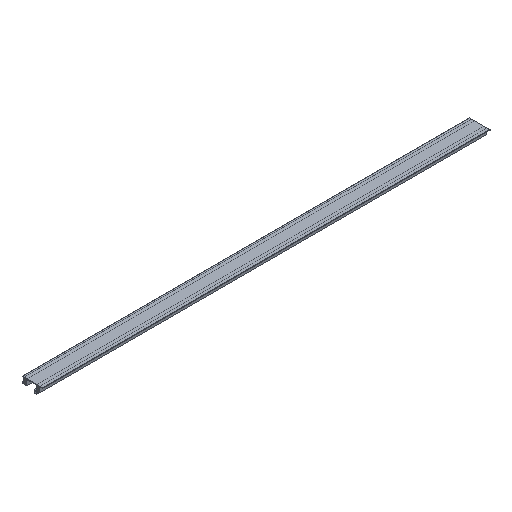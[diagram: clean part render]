
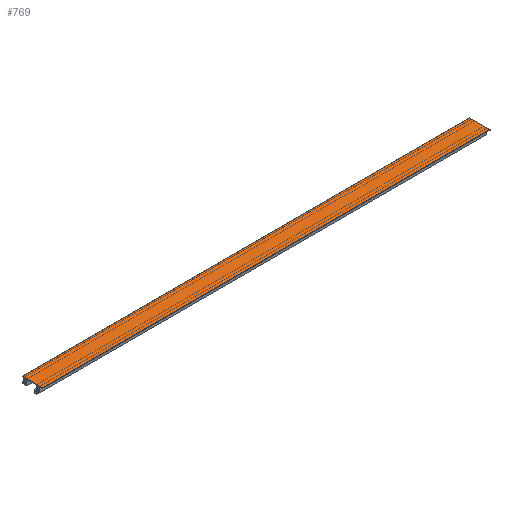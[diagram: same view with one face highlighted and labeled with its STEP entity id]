
A CAD part, isometric view. The second image highlights one B-rep face of the part: STEP entity #769.
In plain terms, the highlighted planar face has unit normal (0, 0, 1).
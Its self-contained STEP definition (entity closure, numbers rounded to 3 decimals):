
#20 = ORIENTED_EDGE ( 'NONE', *, *, #319, .T. ) ;
#45 = CARTESIAN_POINT ( 'NONE',  ( -1043.2, -35.497, 38.5 ) ) ;
#97 = EDGE_CURVE ( 'NONE', #294, #638, #455, .T. ) ;
#108 = CARTESIAN_POINT ( 'NONE',  ( -1043.2, -35.497, 38.5 ) ) ;
#146 = VECTOR ( 'NONE', #707, 1000. ) ;
#163 = CARTESIAN_POINT ( 'NONE',  ( 0., 11.85, 38.5 ) ) ;
#172 = AXIS2_PLACEMENT_3D ( 'NONE', #660, #859, #671 ) ;
#195 = PLANE ( 'NONE',  #172 ) ;
#202 = FACE_OUTER_BOUND ( 'NONE', #741, .T. ) ;
#210 = LINE ( 'NONE', #416, #670 ) ;
#213 = DIRECTION ( 'NONE',  ( 1., 0., 0. ) ) ;
#294 = VERTEX_POINT ( 'NONE', #108 ) ;
#319 = EDGE_CURVE ( 'NONE', #768, #294, #576, .T. ) ;
#341 = VECTOR ( 'NONE', #213, 1000. ) ;
#342 = ORIENTED_EDGE ( 'NONE', *, *, #348, .F. ) ;
#348 = EDGE_CURVE ( 'NONE', #554, #638, #852, .T. ) ;
#381 = EDGE_CURVE ( 'NONE', #768, #554, #210, .T. ) ;
#413 = ORIENTED_EDGE ( 'NONE', *, *, #381, .F. ) ;
#416 = CARTESIAN_POINT ( 'NONE',  ( -1043.2, 11.85, 38.5 ) ) ;
#442 = CARTESIAN_POINT ( 'NONE',  ( 0., -35.497, 38.5 ) ) ;
#455 = LINE ( 'NONE', #860, #341 ) ;
#475 = DIRECTION ( 'NONE',  ( 1., 0., 0. ) ) ;
#554 = VERTEX_POINT ( 'NONE', #163 ) ;
#567 = DIRECTION ( 'NONE',  ( 0., -1., 0. ) ) ;
#569 = VECTOR ( 'NONE', #567, 1000. ) ;
#576 = LINE ( 'NONE', #45, #569 ) ;
#638 = VERTEX_POINT ( 'NONE', #770 ) ;
#660 = CARTESIAN_POINT ( 'NONE',  ( -1043.2, -35.497, 38.5 ) ) ;
#670 = VECTOR ( 'NONE', #475, 1000. ) ;
#671 = DIRECTION ( 'NONE',  ( 0., -1., 0. ) ) ;
#707 = DIRECTION ( 'NONE',  ( 0., -1., 0. ) ) ;
#741 = EDGE_LOOP ( 'NONE', ( #342, #413, #20, #761 ) ) ;
#761 = ORIENTED_EDGE ( 'NONE', *, *, #97, .T. ) ;
#768 = VERTEX_POINT ( 'NONE', #868 ) ;
#769 = ADVANCED_FACE ( 'NONE', ( #202 ), #195, .T. ) ;
#770 = CARTESIAN_POINT ( 'NONE',  ( 0., -35.497, 38.5 ) ) ;
#852 = LINE ( 'NONE', #442, #146 ) ;
#859 = DIRECTION ( 'NONE',  ( 0., 0., 1. ) ) ;
#860 = CARTESIAN_POINT ( 'NONE',  ( -1043.2, -35.497, 38.5 ) ) ;
#868 = CARTESIAN_POINT ( 'NONE',  ( -1043.2, 11.85, 38.5 ) ) ;
